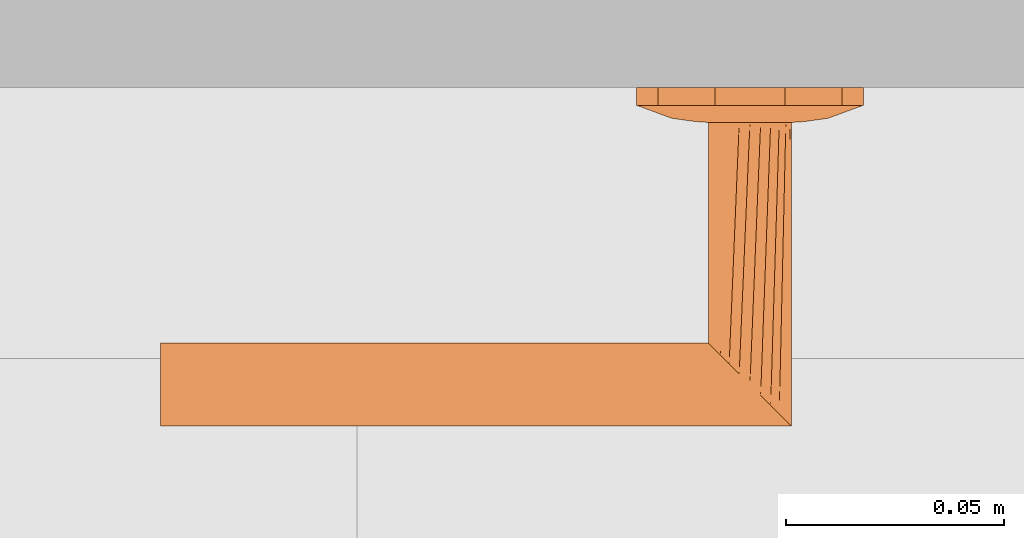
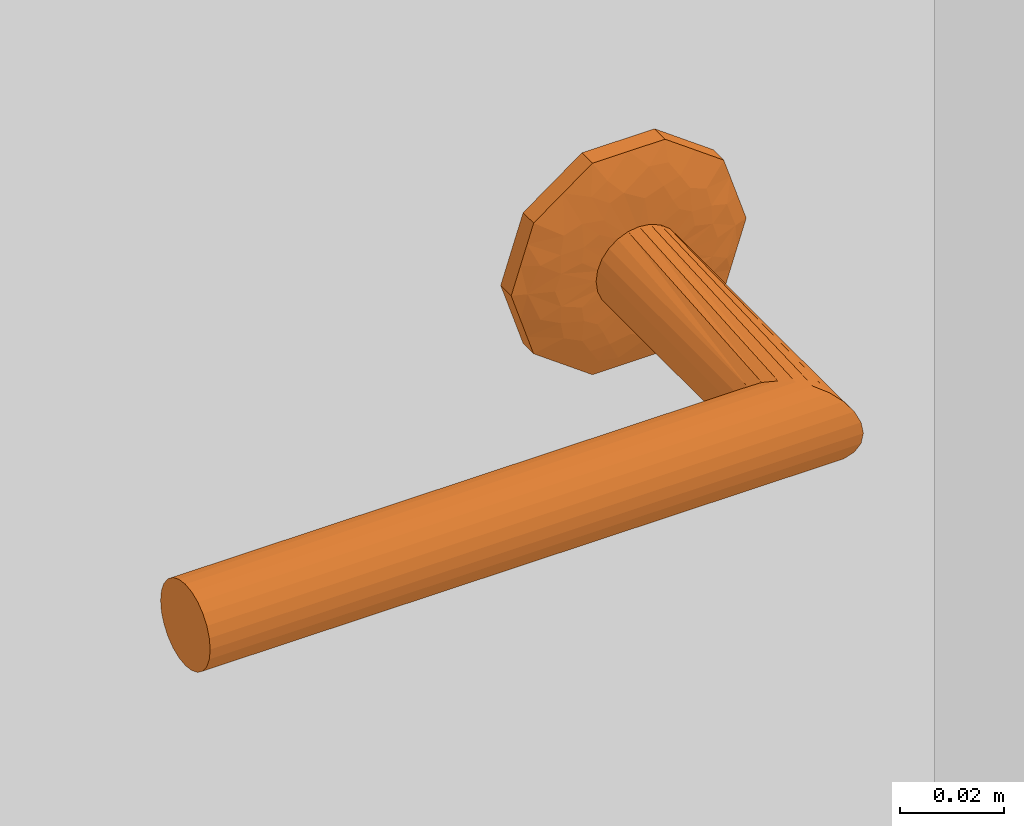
# One storey, part 102 of 125: 1 proxy.
"""IFC2X3 building model written with IfcOpenShell, lengths in millimetres."""

from ifc_helpers import new_model, entity, si_unit, converted_unit, direction, frame, origin, place, context, subcontext, project, spatial, faceted_brep, source, transform, mapped, material, type_object, type_shapes, element, save


model = new_model("IFC2X3")

# Units and contexts
model_context = context("Model", 3, precision=0.01, world=origin(), true_north=direction((6.123233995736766e-17, 1.0)))
plan_context = context("Plan", 3, precision=0.01, world=origin(), true_north=direction((6.123233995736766e-17, 1.0)))
body_context = subcontext(model_context, "Body", "Model", "MODEL_VIEW")
ifc_project = project(units=[si_unit("LENGTHUNIT", "METRE", prefix="MILLI"), converted_unit("PLANEANGLEUNIT", "DEGREE", entity("IfcPlaneAngleMeasure", 0.017453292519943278), si_unit("PLANEANGLEUNIT", "RADIAN"), dimensions=[0, 0, 0, 0, 0, 0, 0]), si_unit("AREAUNIT", "SQUARE_METRE")], contexts=[model_context, plan_context])

# Site, building, storey
site_placement = place(None, origin())
site = spatial("IfcSite", under=ifc_project, at=site_placement, Name="Default", CompositionType="ELEMENT")
building_placement = place(site_placement, origin())
building = spatial("IfcBuilding", under=site, at=building_placement, CompositionType="ELEMENT")
storey_placement = place(building_placement, frame((0.0, 0.0, 3125.0)))
storey = spatial("IfcBuildingStorey", under=building, at=storey_placement, Name="2K", CompositionType="ELEMENT", Elevation=3125.0)

# Proxy
ifc_material = material(Name="<Unnamed>")
building_element_proxy_type = type_object("IfcBuildingElementProxyType", Name="Door-handle_Lever_ABLOY_INOXI_3-19ss-002_RT:Default", PredefinedType="NOTDEFINED", material=ifc_material)
shared_shape = source(origin(), body_context, "Body", "Brep", [
    faceted_brep([(0.0, 0.0, 0.0), (21.034441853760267, -15.282416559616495, 0.0), (14.534441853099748, -20.00494299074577, 0.0), (8.034441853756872, -24.72746942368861, 0.0), (0.0, -24.72746942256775, 0.0), (23.51722092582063, -7.6412082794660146, 0.0), (26.0, 0.0, 0.0), (-8.034441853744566, -24.727469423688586, 0.0), (-14.534441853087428, -20.00494299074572, 0.0), (-21.03444185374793, -15.282416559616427, 0.0), (-23.517220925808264, -7.641208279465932, 0.0), (-26.0, 0.0, 0.0), (-23.517220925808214, 7.641208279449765, 0.0), (23.517220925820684, 7.641208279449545, 0.0), (21.034441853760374, 15.282416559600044, 0.0), (14.53444185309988, 20.00494299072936, 0.0), (8.034441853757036, 24.72746942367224, 0.0), (-21.034441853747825, 15.282416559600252, 0.0), (-14.53444185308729, 20.004942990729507, 0.0), (-8.0344418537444, 24.72746942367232, 0.0), (0.0, 24.72746942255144, 0.0), (0.0, 0.0, 8.0), (4.7500000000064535, -8.227241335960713, 8.0), (5.937500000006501, -6.170431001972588, 8.0), (7.125000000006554, -4.113620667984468, 8.0), (8.312500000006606, -2.0568103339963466, 8.0), (9.500000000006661, 0.0, 8.0), (8.312500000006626, 2.056810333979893, 8.0), (2.3750000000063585, -8.227241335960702, 8.0), (0.0, -8.227241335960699, 8.0), (-2.3749999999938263, -8.227241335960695, 8.0), (-4.749999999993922, -8.227241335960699, 8.0), (-5.937499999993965, -6.170431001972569, 8.0), (-7.124999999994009, -4.113620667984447, 8.0), (-8.312499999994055, -2.056810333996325, 8.0), (-9.499999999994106, 0.0, 8.0), (7.125000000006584, 4.113620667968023, 8.0), (5.937500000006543, 6.170431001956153, 8.0), (4.750000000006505, 8.227241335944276, 8.0), (2.3750000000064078, 8.22724133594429, 8.0), (-8.31249999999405, 2.0568103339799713, 8.0), (-7.12499999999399, 4.113620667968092, 8.0), (-5.9374999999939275, 6.170431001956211, 8.0), (-4.74999999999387, 8.227241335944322, 8.0), (0.0, 8.227241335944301, 8.0), (-2.374999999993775, 8.227241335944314, 8.0), (-22.488765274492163, -10.806469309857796, 4.030771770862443), (-16.663919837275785, -7.932665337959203, 6.877259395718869), (-20.643071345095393, -6.292822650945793, 5.929480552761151), (-12.50457926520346, -5.179566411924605, 7.774932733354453), (-16.764060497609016, -3.820257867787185, 7.1747985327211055), (-9.071726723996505, -10.311606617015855, 7.7520782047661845), (-11.963426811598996, -8.625290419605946, 7.618343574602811), (-11.979136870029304, -13.678312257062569, 6.945778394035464), (5.7585542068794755, -20.96753300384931, 5.871476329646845), (0.0, -24.72746942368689, 4.030771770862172), (8.03444185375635, -24.727469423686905, 4.030771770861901), (16.66391982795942, -7.932665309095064, 6.877259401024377), (22.488765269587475, -10.806469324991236, 4.03077177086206), (20.64307133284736, -6.29282258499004, 5.929480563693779), (14.534441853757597, -20.004942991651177, 4.030771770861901), (9.499431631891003, -18.64368355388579, 6.154325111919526), (-15.783149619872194, -11.991003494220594, 6.50080018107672), (-21.034441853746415, -15.282416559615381, 4.030771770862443), (-14.53444185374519, -20.00494299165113, 4.030771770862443), (-23.012042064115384, 0.0, 5.135401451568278), (-23.943088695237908, -6.330522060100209, 4.030771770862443), (11.96342678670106, -8.62529049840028, 7.618343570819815), (12.504579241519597, -5.179566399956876, 7.774932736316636), (16.764060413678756, -3.8202578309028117, 7.17479855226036), (15.783149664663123, -11.991003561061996, 6.50080015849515), (17.985351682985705, 0.0, 6.993737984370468), (23.012042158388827, 0.0, 5.135401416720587), (8.661516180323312, -10.478936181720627, 7.768126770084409), (-8.03444185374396, -24.727469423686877, 4.030771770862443), (-3.3573143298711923, -21.197247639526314, 5.971427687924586), (-9.941915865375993, -17.061976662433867, 6.522757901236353), (-5.973257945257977, -16.430139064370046, 7.110979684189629), (-7.711266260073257, -12.760344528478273, 7.594456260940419), (11.979136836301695, -13.678312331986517, 6.945778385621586), (7.511307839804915, -13.358932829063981, 7.529187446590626), (5.953298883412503, -16.50608604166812, 7.096344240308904), (-1.5654593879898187, -15.307443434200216, 7.519134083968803), (-7.784980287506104, -20.476295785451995, 5.812837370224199), (2.8135289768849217, -17.76392260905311, 6.993737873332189), (-17.98535168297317, 0.0, 6.993737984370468), (-26.0, 0.0, 4.030771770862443), (-23.51722092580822, -7.641208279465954, 4.030771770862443), (23.943088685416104, -6.33052209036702, 4.030771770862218), (24.308823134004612, -5.204907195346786, 4.030771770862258), (26.0, 0.0, 4.030771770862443), (21.03444185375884, -15.282416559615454, 4.030771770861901), (22.617646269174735, -10.40981439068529, 4.030771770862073), (22.488765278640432, 10.806469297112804, 4.030771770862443), (16.66391984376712, 7.932665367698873, 6.877259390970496), (20.643071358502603, 6.292822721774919, 5.929480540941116), (12.504579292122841, 5.179566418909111, 7.774932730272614), (16.764060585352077, 3.8202579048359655, 7.174798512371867), (9.07172672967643, 10.31160659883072, 7.752078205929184), (11.963426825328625, 8.62529034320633, 7.618343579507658), (11.979136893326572, 13.67831220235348, 6.9457784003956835), (-5.758554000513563, 20.96753314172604, 5.8714763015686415), (0.0, 24.72746942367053, 4.030771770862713), (-8.03444185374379, 24.72746942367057, 4.030771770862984), (-16.663919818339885, 7.932665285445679, 6.877259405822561), (-22.48876526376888, 10.806469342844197, 4.030771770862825), (-20.643071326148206, 6.2928225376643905, 5.929480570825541), (-14.534441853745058, 20.004942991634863, 4.030771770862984), (-9.499431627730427, 18.643683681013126, 6.154325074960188), (15.783149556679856, 11.991003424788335, 6.5008002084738), (21.03444185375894, 15.282416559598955, 4.030771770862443), (14.534441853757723, 20.004942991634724, 4.030771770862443), (23.943088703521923, 6.330522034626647, 4.030771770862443), (-11.96342675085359, 8.625290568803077, 7.618343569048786), (-12.504579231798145, 5.179566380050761, 7.77493273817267), (-16.764060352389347, 3.820257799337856, 7.174798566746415), (-15.78314967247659, 11.991003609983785, 6.500800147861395), (-8.661516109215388, 10.478936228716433, 7.768126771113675), (8.034441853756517, 24.727469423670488, 4.030771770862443), (3.3573144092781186, 21.197247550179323, 5.971427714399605), (9.941915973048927, 17.061976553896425, 6.522757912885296), (5.9732581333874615, 16.430139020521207, 7.110979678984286), (7.711266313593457, 12.760344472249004, 7.5944562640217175), (-11.979136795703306, 13.678312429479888, 6.945778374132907), (-7.511307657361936, 13.358932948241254, 7.5291874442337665), (-5.9532988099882, 16.50608628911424, 7.096344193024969), (1.5654596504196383, 15.3074431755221, 7.519134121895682), (7.784980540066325, 20.476295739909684, 5.812837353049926), (-2.81352881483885, 17.76392263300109, 6.993737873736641), (23.51722092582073, 7.6412082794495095, 4.030771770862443), (-23.94308867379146, 6.330522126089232, 4.030771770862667), (-24.308823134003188, 5.20490719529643, 4.030771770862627), (-21.034441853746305, 15.282416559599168, 4.030771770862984), (-22.617646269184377, 10.409814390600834, 4.0307717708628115)], [[[0, 1, 2]], [[0, 2, 3]], [[0, 3, 4]], [[0, 5, 1]], [[0, 6, 5]], [[0, 4, 7]], [[0, 7, 8]], [[0, 8, 9]], [[0, 9, 10]], [[0, 10, 11]], [[0, 11, 12]], [[0, 13, 6]], [[0, 14, 13]], [[0, 15, 14]], [[0, 16, 15]], [[0, 12, 17]], [[0, 17, 18]], [[0, 18, 19]], [[0, 19, 20]], [[0, 20, 16]], [[21, 22, 23]], [[21, 23, 24]], [[21, 24, 25]], [[21, 25, 26]], [[21, 26, 27]], [[21, 28, 22]], [[21, 29, 28]], [[21, 30, 29]], [[21, 31, 30]], [[21, 32, 31]], [[21, 33, 32]], [[21, 34, 33]], [[21, 35, 34]], [[21, 27, 36]], [[21, 36, 37]], [[21, 37, 38]], [[21, 38, 39]], [[21, 40, 35]], [[21, 41, 40]], [[21, 42, 41]], [[21, 43, 42]], [[21, 39, 44]], [[21, 44, 45]], [[21, 45, 43]], [[46, 47, 48]], [[47, 49, 50]], [[49, 33, 34]], [[51, 52, 53]], [[49, 52, 33]], [[48, 47, 50]], [[54, 55, 56]], [[57, 58, 59]], [[56, 60, 61]], [[62, 63, 64]], [[65, 66, 48]], [[67, 57, 68]], [[68, 69, 25]], [[57, 67, 70]], [[69, 26, 25]], [[62, 53, 52]], [[71, 69, 72]], [[67, 23, 73]], [[74, 55, 75]], [[76, 77, 78]], [[79, 60, 70]], [[69, 59, 72]], [[80, 81, 61]], [[77, 30, 78]], [[82, 30, 77]], [[28, 80, 22]], [[77, 83, 75]], [[75, 82, 77]], [[55, 84, 75]], [[85, 50, 35]], [[24, 68, 25]], [[82, 84, 29]], [[84, 82, 75]], [[31, 78, 30]], [[82, 29, 30]], [[34, 35, 50]], [[52, 49, 47]], [[62, 52, 47]], [[34, 50, 49]], [[53, 78, 51]], [[32, 33, 52]], [[85, 65, 50]], [[66, 65, 86]], [[67, 68, 24]], [[77, 76, 83]], [[65, 48, 50]], [[63, 62, 46]], [[48, 66, 87, 46]], [[62, 47, 46]], [[69, 68, 57]], [[80, 73, 22]], [[70, 67, 79]], [[67, 24, 23]], [[72, 88, 89, 90]], [[69, 71, 26]], [[59, 69, 57]], [[61, 60, 79]], [[62, 64, 53]], [[91, 58, 70]], [[72, 59, 88]], [[57, 70, 58]], [[59, 58, 92]], [[80, 61, 79]], [[91, 70, 60]], [[61, 81, 54]], [[73, 80, 79]], [[28, 84, 81]], [[67, 73, 79]], [[29, 84, 28]], [[22, 73, 23]], [[51, 31, 32]], [[76, 78, 53]], [[53, 64, 76]], [[83, 64, 74]], [[64, 83, 76]], [[75, 83, 74]], [[31, 51, 78]], [[52, 51, 32]], [[28, 81, 80]], [[54, 81, 84]], [[55, 54, 84]], [[61, 54, 56]], [[93, 94, 95]], [[94, 96, 97]], [[96, 36, 27]], [[98, 99, 100]], [[96, 99, 36]], [[95, 94, 97]], [[101, 102, 103]], [[104, 105, 106]], [[103, 107, 108]], [[109, 110, 111]], [[72, 112, 95]], [[113, 104, 114]], [[114, 115, 40]], [[104, 113, 116]], [[115, 35, 40]], [[109, 100, 99]], [[85, 115, 65]], [[113, 42, 117]], [[118, 102, 119]], [[120, 121, 122]], [[123, 107, 116]], [[115, 106, 65]], [[124, 125, 108]], [[121, 39, 122]], [[126, 39, 121]], [[45, 124, 43]], [[121, 127, 119]], [[119, 126, 121]], [[102, 128, 119]], [[71, 97, 26]], [[41, 114, 40]], [[126, 128, 44]], [[128, 126, 119]], [[38, 122, 39]], [[126, 44, 39]], [[27, 26, 97]], [[99, 96, 94]], [[109, 99, 94]], [[27, 97, 96]], [[100, 122, 98]], [[37, 36, 99]], [[71, 72, 97]], [[112, 72, 90]], [[113, 114, 41]], [[121, 120, 127]], [[72, 95, 97]], [[110, 109, 93]], [[95, 112, 129, 93]], [[109, 94, 93]], [[115, 114, 104]], [[124, 117, 43]], [[116, 113, 123]], [[113, 41, 42]], [[65, 130, 131, 86]], [[115, 85, 35]], [[106, 115, 104]], [[108, 107, 123]], [[109, 111, 100]], [[132, 105, 116]], [[65, 106, 130]], [[104, 116, 105]], [[106, 105, 133]], [[124, 108, 123]], [[132, 116, 107]], [[108, 125, 101]], [[117, 124, 123]], [[45, 128, 125]], [[113, 117, 123]], [[44, 128, 45]], [[43, 117, 42]], [[98, 38, 37]], [[120, 122, 100]], [[100, 111, 120]], [[127, 111, 118]], [[111, 127, 120]], [[119, 127, 118]], [[38, 98, 122]], [[99, 98, 37]], [[45, 125, 124]], [[101, 125, 128]], [[102, 101, 128]], [[108, 101, 103]], [[7, 74, 64, 63, 9, 8]], [[10, 9, 63, 46, 87, 66, 86, 11]], [[6, 90, 89, 88, 92, 1, 5]], [[1, 58, 91]], [[74, 7, 4, 3, 56, 55]], [[60, 56, 3, 2, 1, 91]], [[1, 92, 58]], [[14, 110, 93, 129, 112, 90, 6, 13]], [[111, 110, 14, 15, 16, 118]], [[11, 86, 131, 130, 133, 17, 12]], [[17, 105, 132]], [[118, 16, 20, 19, 103, 102]], [[107, 103, 19, 18, 17, 132]], [[17, 133, 105]], [[59, 92, 88]], [[106, 133, 130]]]),
    faceted_brep([(4.7499999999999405, -8.22724133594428, 8.0), (2.4587809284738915, -9.176295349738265, 8.0), (0.0, -9.499999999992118, 8.0), (-2.4587809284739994, -9.176295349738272, 8.0), (-4.7500000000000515, -8.227241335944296, 8.0), (-6.717514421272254, -6.717514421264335, 8.0), (-8.227241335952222, -4.74999999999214, 8.0), (-9.176295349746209, -2.4587809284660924, 8.0), (-9.500000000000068, 0.0, 8.0), (-9.176295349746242, 2.458780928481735, 8.0), (-8.227241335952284, 4.750000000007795, 8.0), (-6.717514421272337, 6.717514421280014, 8.0), (-4.750000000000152, 8.227241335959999, 8.0), (-2.4587809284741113, 9.176295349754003, 8.0), (0.0, 9.500000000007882, 8.0), (2.4587809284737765, 9.176295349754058, 8.0), (4.7499999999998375, 8.227241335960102, 8.0), (6.717514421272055, 6.717514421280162, 8.0), (8.22724133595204, 4.75000000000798, 8.0), (9.17629534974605, 2.458780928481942, 8.0), (9.499999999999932, 0.0, 8.0), (9.17629534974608, -2.458780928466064, 8.0), (8.227241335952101, -4.749999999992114, 8.0), (6.717514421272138, -6.7175144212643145, 8.0), (-8.227241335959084, 4.7499999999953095, 59.772758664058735), (-6.717514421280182, 6.7175144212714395, 61.282485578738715), (-9.176295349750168, 2.458780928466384, 58.82370465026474), (-4.750000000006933, 8.227241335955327, 63.25000000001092), (-2.4587809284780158, 9.176295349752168, 65.54121907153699), (-9.500000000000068, 0.0, 58.50000000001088), (0.0, 9.50000000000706, 68.0), (4.750000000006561, 8.227241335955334, 72.75000000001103), (2.4587809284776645, 9.17629534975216, 70.45878092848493), (6.717514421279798, 6.7175144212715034, 74.71751442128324), (8.22724133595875, 4.749999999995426, 76.22724133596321), (9.17629534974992, 2.458780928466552, 77.17629534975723), (9.499999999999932, 0.0, 77.50000000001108), (9.176295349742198, -2.4587809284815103, 77.1762953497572), (8.227241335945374, -4.750000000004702, 76.22724133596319), (6.7175144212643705, -6.717514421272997, 74.7175144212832), (4.749999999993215, -8.227241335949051, 72.75000000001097), (2.4587809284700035, -9.17629534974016, 70.45878092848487), (0.0, -9.49999999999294, 68.0), (-2.4587809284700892, -9.176295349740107, 65.54121907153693), (-4.749999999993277, -8.227241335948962, 63.250000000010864), (-6.717514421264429, -6.717514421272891, 61.282485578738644), (-9.176295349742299, -2.458780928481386, 58.8237046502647), (-8.227241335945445, -4.750000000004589, 59.77275866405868), (-135.0, -9.176295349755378, 70.4587809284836), (-135.0, -8.227241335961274, 72.75000000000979), (-135.0, -6.717514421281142, 74.71751442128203), (-135.0, -4.750000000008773, 76.22724133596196), (-135.0, -2.4587809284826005, 77.17629534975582), (-135.0, 0.0, 77.5000000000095), (-135.0, 2.4587809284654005, 77.17629534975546), (-135.0, 4.749999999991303, 76.22724133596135), (-135.0, 6.717514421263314, 74.71751442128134), (-135.0, 8.227241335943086, 72.75000000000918), (-135.0, 9.17629534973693, 70.45878092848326), (-135.0, 9.499999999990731, 68.0), (-135.0, 9.17629534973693, 65.54121907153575), (-135.0, 8.227241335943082, 63.250000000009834), (-135.0, 6.717514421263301, 61.28248557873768), (-135.0, 4.749999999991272, 59.772758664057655), (-135.0, 2.458780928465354, 58.823704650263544), (-135.0, 0.0, 58.50000000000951), (-135.0, -2.458780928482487, 58.82370465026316), (-135.0, -4.750000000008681, 59.772758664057), (-135.0, -6.7175144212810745, 61.28248557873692), (-135.0, -8.227241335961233, 63.25000000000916), (-135.0, -9.176295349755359, 65.54121907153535), (-135.0, -9.500000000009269, 68.0)], [[[0, 1, 2, 3, 4, 5, 6, 7, 8, 9, 10, 11, 12, 13, 14, 15, 16, 17, 18, 19, 20, 21, 22, 23]], [[24, 25, 11, 10]], [[26, 24, 10, 9]], [[14, 27, 28]], [[13, 27, 14]], [[25, 27, 13]], [[29, 26, 9, 8]], [[12, 11, 25]], [[25, 13, 12]], [[28, 30, 15]], [[31, 17, 32]], [[33, 18, 31]], [[19, 34, 35]], [[33, 34, 19]], [[20, 19, 35, 36]], [[16, 15, 30]], [[14, 28, 15]], [[19, 18, 33]], [[17, 31, 18]], [[17, 16, 32]], [[30, 32, 16]], [[20, 36, 37, 21]], [[38, 21, 37]], [[22, 39, 40]], [[38, 39, 21]], [[23, 40, 41]], [[39, 22, 21]], [[1, 42, 43]], [[42, 1, 0]], [[23, 41, 0]], [[23, 22, 40]], [[41, 42, 0]], [[44, 45, 3]], [[43, 44, 2]], [[46, 29, 8, 7]], [[47, 46, 7, 6]], [[45, 47, 6, 5]], [[45, 4, 3]], [[3, 2, 44]], [[5, 4, 45]], [[43, 2, 1]], [[48, 49, 50, 51, 52, 53, 54, 55, 56, 57, 58, 59, 60, 61, 62, 63, 64, 65, 66, 67, 68, 69, 70, 71]], [[64, 63, 24, 26]], [[65, 64, 26, 29]], [[61, 60, 28, 27]], [[62, 61, 27, 25]], [[63, 62, 25, 24]], [[59, 30, 28, 60]], [[57, 56, 33, 31]], [[58, 57, 31, 32]], [[54, 53, 36, 35]], [[55, 54, 35, 34]], [[56, 55, 34, 33]], [[32, 30, 59, 58]], [[52, 51, 38, 37]], [[53, 52, 37, 36]], [[49, 48, 41, 40]], [[50, 49, 40, 39]], [[51, 50, 39, 38]], [[42, 41, 48, 71]], [[69, 68, 45, 44]], [[70, 69, 44, 43]], [[66, 65, 29, 46]], [[67, 66, 46, 47]], [[68, 67, 47, 45]], [[42, 71, 70, 43]]]),
])
type_shapes(building_element_proxy_type, [shared_shape])
proxy_placement = place(storey_placement, frame((214.9935349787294, 8768.0, 1000.0), z_axis=(0.0, -1.0, 0.0), x_axis=(1.0, 0.0, 0.0)))
element("IfcBuildingElementProxy", 1, at=proxy_placement, inside=storey, type_object=building_element_proxy_type, material=ifc_material, Name="Door-handle_Lever_ABLOY_INOXI_3-19ss-002_RT:Default", ObjectType="Door-handle_Lever_ABLOY_INOXI_3-19ss-002_RT:Default", context=body_context, shape_type="MappedRepresentation", body=[
    mapped(shared_shape, transform((0.0, 0.0, 0.0), scale=1.0)),
])

save(model, "model.ifc")
